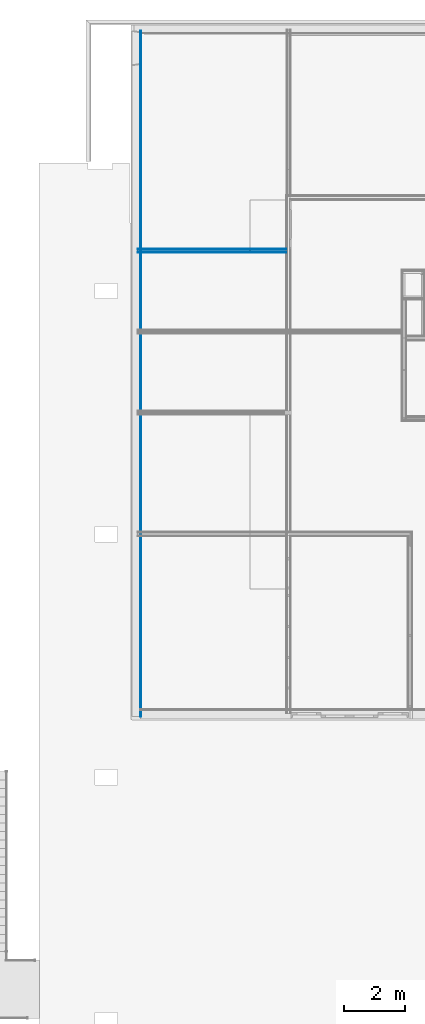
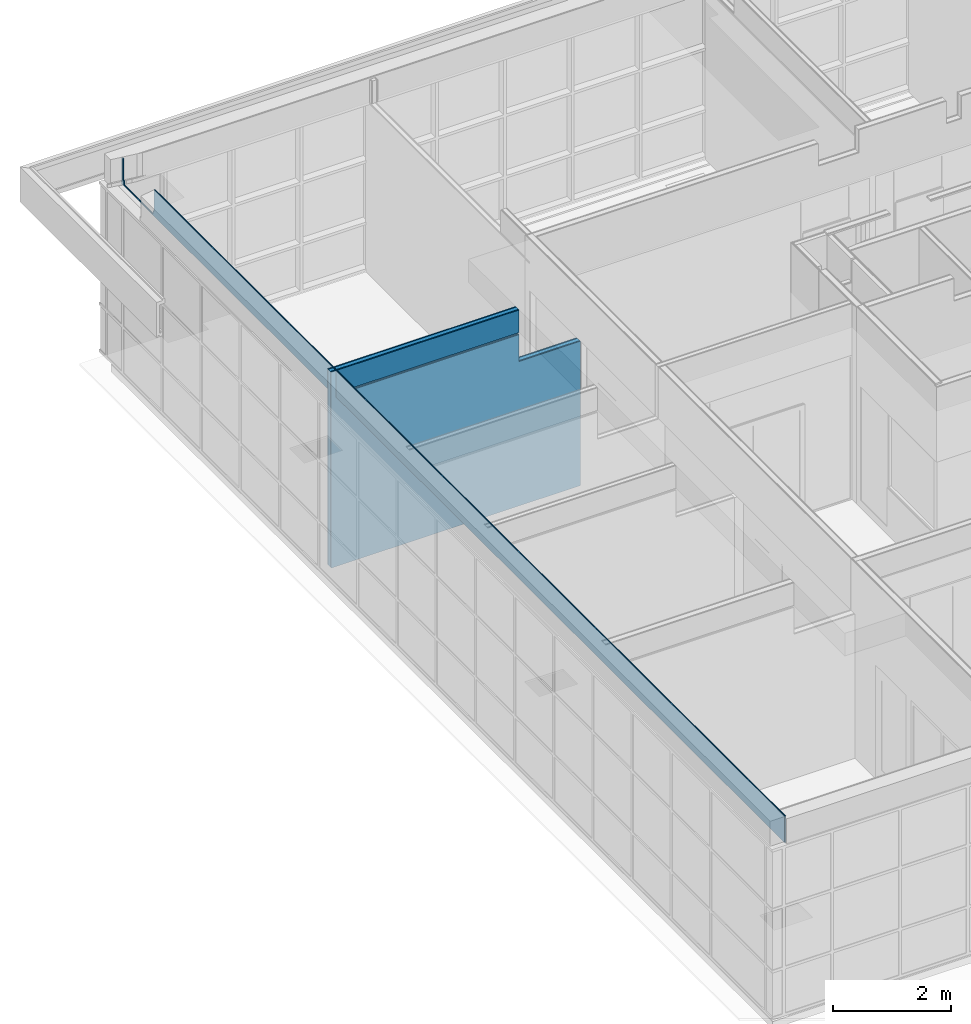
# One storey, part 36 of 109: 7 building element parts, 2 elements without a shape of their own.
"""IFC2X3 building model written with IfcOpenShell, lengths in millimetres."""

from ifc_helpers import new_model, entity, si_unit, converted_unit, derived_unit, money_unit, direction, frame, origin_with_axes, place, context, subcontext, project, spatial, faceted_brep, material, type_object, element, aggregate, save


model = new_model("IFC2X3")

# Units and contexts
model_context = context("Model", 3, precision=0.01, world=origin_with_axes(), true_north=direction((0.0, 1.0)))
body_context = subcontext(model_context, "Body", "Model", "MODEL_VIEW")
ifc_project = project(units=[si_unit("LENGTHUNIT", "METRE", prefix="MILLI"), si_unit("AREAUNIT", "SQUARE_METRE"), si_unit("VOLUMEUNIT", "CUBIC_METRE"), converted_unit("PLANEANGLEUNIT", "DEGREE", entity("IfcPlaneAngleMeasure", 0.0174532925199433), si_unit("PLANEANGLEUNIT", "RADIAN"), dimensions=[0, 0, 0, 0, 0, 0, 0]), money_unit("EUR"), converted_unit("TIMEUNIT", "Year", entity("IfcTimeMeasure", 31557600.0), si_unit("TIMEUNIT", "SECOND"), dimensions=[0, 0, 1, 0, 0, 0, 0]), si_unit("MASSUNIT", "GRAM", prefix="KILO"), si_unit("THERMODYNAMICTEMPERATUREUNIT", "DEGREE_CELSIUS"), si_unit("LUMINOUSINTENSITYUNIT", "LUMEN"), si_unit("ENERGYUNIT", "JOULE", prefix="MEGA"), derived_unit("THERMALCONDUCTANCEUNIT", [(si_unit("POWERUNIT", "WATT"), 1), (si_unit("LENGTHUNIT", "METRE"), -1), (si_unit("THERMODYNAMICTEMPERATUREUNIT", "KELVIN"), -1)]), derived_unit("SPECIFICHEATCAPACITYUNIT", [(si_unit("ENERGYUNIT", "JOULE"), 1), (si_unit("MASSUNIT", "GRAM", prefix="KILO"), -1), (si_unit("THERMODYNAMICTEMPERATUREUNIT", "KELVIN"), -1)]), derived_unit("MASSDENSITYUNIT", [(si_unit("MASSUNIT", "GRAM", prefix="KILO"), 1), (si_unit("VOLUMEUNIT", "CUBIC_METRE"), -1)])], contexts=[model_context])

# Site, building, storey
site_placement = place(None, origin_with_axes())
site = spatial("IfcSite", under=ifc_project, at=site_placement, Name="<site naam>", CompositionType="ELEMENT")
building_placement = place(site_placement, origin_with_axes())
building = spatial("IfcBuilding", under=site, at=building_placement, Name="<Naam gebouw>", CompositionType="ELEMENT")
storey_placement = place(building_placement, origin_with_axes())
storey = spatial("IfcBuildingStorey", under=building, at=storey_placement, Name="00 Begane grond", CompositionType="ELEMENT", Elevation=0.0)

# Wall, building element parts
wall_type_1 = type_object("IfcWallType", Name="MS-02 GF 125 ECO DGS/2.75.2.A 125", PredefinedType="NOTDEFINED")
wall_1_placement = place(storey_placement, frame((-3999.999999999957, 17333.33333333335, 0.0), z_axis=(0.0, 0.0, 1.0), x_axis=(-1.0, 0.0, 0.0)))
wall_1 = element("IfcWall", 1, at=wall_1_placement, inside=storey, type_object=wall_type_1, Name="22_Binnenwand_MS-02")
ifc_material_1 = material(Name="gipsplaat")
building_element_part_1_placement = place(wall_1_placement, origin_with_axes())
building_element_part_1 = element("IfcBuildingElementPart", 2, at=building_element_part_1_placement, material=ifc_material_1, Name="gipsplaat", context=body_context, shape_type="Brep", body=[
    faceted_brep([(1275.048195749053, 62.5, 4070.0), (1275.048195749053, 50.00000000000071, 4070.0), (4968.96338968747, 49.99999999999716, 4070.0), (4968.96338968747, 62.49999999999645, 4070.0), (1275.048195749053, 50.00000000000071, 3600.0), (1275.048195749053, 62.5, 3600.0), (1275.048195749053, 50.00000000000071, 3560.0), (1275.048195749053, 50.00000000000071, 3000.0), (75.00000520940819, 50.00000000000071, 3000.0), (75.00000000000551, 50.00000000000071, 0.0), (4968.96338968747, 49.99999999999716, 0.0), (4784.46338968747, 49.99999999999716, 3600.0), (4784.46338968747, 49.99999999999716, 3560.0), (4968.96338968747, 62.49999999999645, 0.0), (1275.048195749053, 62.5, 3000.0), (1275.048195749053, 62.5, 3560.0), (4784.46338968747, 62.49999999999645, 3560.0), (4784.46338968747, 62.49999999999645, 3600.0), (75.00000000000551, 62.5, 0.0), (75.00000520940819, 62.5, 3000.0)], [[[0, 1, 2, 3]], [[4, 1, 0, 5]], [[6, 7, 8, 9, 10, 2, 1, 4, 11, 12]], [[10, 13, 3, 2]], [[14, 15, 16, 17, 5, 0, 3, 13, 18, 19]], [[4, 5, 17, 11]], [[7, 6, 15, 14]], [[19, 8, 7, 14]], [[8, 19, 18, 9]], [[18, 13, 10, 9]], [[12, 11, 17, 16]], [[15, 6, 12, 16]]]),
])
building_element_part_2_placement = place(wall_1_placement, origin_with_axes())
building_element_part_2 = element("IfcBuildingElementPart", 3, at=building_element_part_2_placement, material=ifc_material_1, Name="gipsplaat", context=body_context, shape_type="Brep", body=[
    faceted_brep([(1275.048195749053, 50.00000000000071, 4070.0), (1275.048195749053, 37.50000000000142, 4070.0), (4968.96338968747, 37.49999999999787, 4070.0), (4968.96338968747, 49.99999999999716, 4070.0), (1275.048195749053, 37.50000000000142, 3600.0), (1275.048195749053, 50.00000000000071, 3600.0), (1275.048195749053, 37.50000000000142, 3560.0), (1275.048195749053, 37.50000000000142, 3000.0), (75.00000520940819, 37.50000000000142, 3000.0), (75.00000000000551, 37.50000000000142, 0.0), (4968.96338968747, 37.49999999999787, 0.0), (4784.46338968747, 37.49999999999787, 3600.0), (4784.46338968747, 37.49999999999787, 3560.0), (4968.96338968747, 49.99999999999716, 0.0), (1275.048195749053, 50.00000000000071, 3000.0), (1275.048195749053, 50.00000000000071, 3560.0), (4784.46338968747, 49.99999999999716, 3560.0), (4784.46338968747, 49.99999999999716, 3600.0), (75.00000000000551, 50.00000000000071, 0.0), (75.00000520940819, 50.00000000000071, 3000.0)], [[[0, 1, 2, 3]], [[4, 1, 0, 5]], [[6, 7, 8, 9, 10, 2, 1, 4, 11, 12]], [[10, 13, 3, 2]], [[14, 15, 16, 17, 5, 0, 3, 13, 18, 19]], [[4, 5, 17, 11]], [[7, 6, 15, 14]], [[19, 8, 7, 14]], [[8, 19, 18, 9]], [[18, 13, 10, 9]], [[12, 11, 17, 16]], [[15, 6, 12, 16]]]),
])
building_element_part_3_placement = place(wall_1_placement, origin_with_axes())
building_element_part_3 = element("IfcBuildingElementPart", 4, at=building_element_part_3_placement, material=ifc_material_1, Name="gipsplaat", context=body_context, shape_type="Brep", body=[
    faceted_brep([(1275.048195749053, -37.50000000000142, 4070.0), (1275.048195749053, -50.00000000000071, 4070.0), (4968.96338968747, -50.00000000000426, 4070.0), (4968.96338968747, -37.50000000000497, 4070.0), (1275.048195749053, -50.00000000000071, 3600.0), (1275.048195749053, -37.50000000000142, 3600.0), (1275.048195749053, -50.00000000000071, 3560.0), (1275.048195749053, -50.00000000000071, 3000.0), (75.00000520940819, -50.00000000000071, 3000.0), (75.00000000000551, -50.00000000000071, 0.0), (4968.96338968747, -50.00000000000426, 0.0), (4784.46338968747, -50.00000000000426, 3600.0), (4784.46338968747, -50.00000000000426, 3560.0), (4968.96338968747, -37.50000000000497, 0.0), (1275.048195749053, -37.50000000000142, 3000.0), (1275.048195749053, -37.50000000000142, 3560.0), (4784.46338968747, -37.50000000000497, 3560.0), (4784.46338968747, -37.50000000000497, 3600.0), (75.00000000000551, -37.50000000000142, 0.0), (75.00000520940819, -37.50000000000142, 3000.0)], [[[0, 1, 2, 3]], [[4, 1, 0, 5]], [[6, 7, 8, 9, 10, 2, 1, 4, 11, 12]], [[10, 13, 3, 2]], [[14, 15, 16, 17, 5, 0, 3, 13, 18, 19]], [[4, 5, 17, 11]], [[7, 6, 15, 14]], [[19, 8, 7, 14]], [[8, 19, 18, 9]], [[18, 13, 10, 9]], [[12, 11, 17, 16]], [[15, 6, 12, 16]]]),
])
building_element_part_4_placement = place(wall_1_placement, origin_with_axes())
building_element_part_4 = element("IfcBuildingElementPart", 5, at=building_element_part_4_placement, material=ifc_material_1, Name="gipsplaat", context=body_context, shape_type="Brep", body=[
    faceted_brep([(1275.048195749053, -50.00000000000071, 4070.0), (1275.048195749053, -62.5, 4070.0), (4968.96338968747, -62.50000000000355, 4070.0), (4968.96338968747, -50.00000000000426, 4070.0), (1275.048195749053, -62.5, 3600.0), (1275.048195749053, -50.00000000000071, 3600.0), (1275.048195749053, -62.5, 3560.0), (1275.048195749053, -62.5, 3000.0), (75.00000520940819, -62.5, 3000.0), (75.00000000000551, -62.5, 0.0), (4968.96338968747, -62.50000000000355, 0.0), (4784.46338968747, -62.50000000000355, 3600.0), (4784.46338968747, -62.50000000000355, 3560.0), (4968.96338968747, -50.00000000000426, 0.0), (1275.048195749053, -50.00000000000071, 3000.0), (1275.048195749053, -50.00000000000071, 3560.0), (4784.46338968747, -50.00000000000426, 3560.0), (4784.46338968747, -50.00000000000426, 3600.0), (75.00000000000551, -50.00000000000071, 0.0), (75.00000520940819, -50.00000000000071, 3000.0)], [[[0, 1, 2, 3]], [[4, 1, 0, 5]], [[6, 7, 8, 9, 10, 2, 1, 4, 11, 12]], [[10, 13, 3, 2]], [[14, 15, 16, 17, 5, 0, 3, 13, 18, 19]], [[4, 5, 17, 11]], [[7, 6, 15, 14]], [[19, 8, 7, 14]], [[8, 19, 18, 9]], [[18, 13, 10, 9]], [[12, 11, 17, 16]], [[15, 6, 12, 16]]]),
])
ifc_material_2 = material(Name="isolatie_steenwol LSW")
building_element_part_5_placement = place(wall_1_placement, origin_with_axes())
building_element_part_5 = element("IfcBuildingElementPart", 6, at=building_element_part_5_placement, material=ifc_material_2, Name="isolatie_steenwol LSW", context=body_context, shape_type="Brep", body=[
    faceted_brep([(1275.048195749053, 37.50000000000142, 4070.0), (1275.048195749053, -37.50000000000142, 4070.0), (4968.96338968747, -37.50000000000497, 4070.0), (4968.96338968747, 37.49999999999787, 4070.0), (1275.048195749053, -37.50000000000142, 3600.0), (1275.048195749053, 37.50000000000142, 3600.0), (1275.048195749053, -37.50000000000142, 3560.0), (1275.048195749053, -37.50000000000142, 3000.0), (75.00000520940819, -37.50000000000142, 3000.0), (75.00000000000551, -37.50000000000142, 0.0), (4968.96338968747, -37.50000000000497, 0.0), (4784.46338968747, -37.50000000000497, 3600.0), (4784.46338968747, -37.50000000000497, 3560.0), (4968.96338968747, 37.49999999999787, 0.0), (1275.048195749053, 37.50000000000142, 3000.0), (1275.048195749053, 37.50000000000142, 3560.0), (4784.46338968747, 37.49999999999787, 3560.0), (4784.46338968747, 37.49999999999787, 3600.0), (75.00000000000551, 37.50000000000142, 0.0), (75.00000520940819, 37.50000000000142, 3000.0)], [[[0, 1, 2, 3]], [[4, 1, 0, 5]], [[6, 7, 8, 9, 10, 2, 1, 4, 11, 12]], [[10, 13, 3, 2]], [[14, 15, 16, 17, 5, 0, 3, 13, 18, 19]], [[4, 5, 17, 11]], [[7, 6, 15, 14]], [[19, 8, 7, 14]], [[8, 19, 18, 9]], [[18, 13, 10, 9]], [[12, 11, 17, 16]], [[15, 6, 12, 16]]]),
])
aggregate(wall_1, [building_element_part_1, building_element_part_2, building_element_part_3, building_element_part_4, building_element_part_5])

wall_type_2 = type_object("IfcWallType", Name="HSB_285 zonder gevelbeplating 313", PredefinedType="NOTDEFINED")
wall_2_placement = place(storey_placement, frame((-9160.499999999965, 1997.50000000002, 3522.500151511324), z_axis=(0.0, 0.0, 1.0), x_axis=(0.0, 1.0, 0.0)))
wall_2 = element("IfcWall", 7, at=wall_2_placement, inside=storey, type_object=wall_type_2, Name="21_Binnenwand_HSB_285")
ifc_material_3 = material(Name="hout_OSB")
building_element_part_6_placement = place(wall_2_placement, origin_with_axes())
building_element_part_6 = element("IfcBuildingElementPart", 8, at=building_element_part_6_placement, material=ifc_material_3, Name="hout_OSB", context=body_context, shape_type="Brep", body=[
    faceted_brep([(21497.58990178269, -284.9999999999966, 97.49984848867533), (21499.93365178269, -299.9999999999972, 97.49984848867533), (21499.93365178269, -299.9999999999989, 17.4998484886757), (21497.58990178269, -284.9999999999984, 17.4998484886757), (21468.046875, -299.9999999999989, 97.49984848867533), (21465.703125, -284.9999999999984, 97.49984848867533), (22536.953125, -299.9999999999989, 97.49984848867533), (22505.06634821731, -300.0000000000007, 97.49984848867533), (22505.0663482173, -299.9999999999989, 17.4998484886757), (21468.046875, -299.9999999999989, 547.4998802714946), (0.0, -300.0000000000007, 547.4998802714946), (0.0, -300.0000000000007, 0.0), (22570.99999999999, -299.9999999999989, 0.0), (22570.99999999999, -299.9999999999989, 547.4998802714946), (22536.953125, -299.9999999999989, 547.4998802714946), (22507.4100982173, -284.9999999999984, 17.4998484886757), (22539.296875, -284.9999999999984, 97.49984848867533), (22539.29687499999, -284.9999999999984, 547.4998802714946), (22570.99999999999, -284.9999999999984, 547.4998802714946), (22570.99999999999, -284.9999999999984, 0.0), (0.0, -285.0000000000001, 0.0), (0.0, -285.0000000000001, 547.4998802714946), (21465.70312499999, -284.9999999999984, 547.4998802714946), (22507.41009821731, -285.0000000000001, 97.49984848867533)], [[[0, 1, 2, 3]], [[4, 1, 0, 5]], [[6, 7, 8, 2, 1, 4, 9, 10, 11, 12, 13, 14]], [[2, 8, 15, 3]], [[16, 17, 18, 19, 20, 21, 22, 5, 0, 3, 15, 23]], [[22, 9, 4, 5]], [[7, 6, 16, 23]], [[7, 23, 15, 8]], [[9, 22, 21, 10]], [[20, 11, 10, 21]], [[11, 20, 19, 12]], [[19, 18, 13, 12]], [[17, 14, 13, 18]], [[6, 14, 17, 16]]]),
])
building_element_part_7_placement = place(wall_2_placement, origin_with_axes())
building_element_part_7 = element("IfcBuildingElementPart", 9, at=building_element_part_7_placement, material=ifc_material_1, Name="gipsplaat", context=body_context, shape_type="Brep", body=[
    faceted_brep([(21499.93365178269, -299.9999999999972, 97.49984848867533), (21501.88677678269, -312.4999999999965, 97.49984848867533), (21501.88677678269, -312.4999999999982, 17.4998484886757), (21499.93365178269, -299.9999999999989, 17.4998484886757), (21470.0, -312.4999999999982, 97.49984848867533), (21468.046875, -299.9999999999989, 97.49984848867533), (22535.0, -312.4999999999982, 97.49984848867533), (22503.11322321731, -312.5, 97.49984848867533), (22503.1132232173, -312.4999999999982, 17.4998484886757), (21470.0, -312.4999999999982, 547.4998802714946), (0.0, -312.5, 547.4998802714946), (0.0, -312.5, 0.0), (22570.99999999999, -312.4999999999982, 0.0), (22570.99999999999, -312.4999999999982, 547.4998802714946), (22534.99999999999, -312.4999999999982, 547.4998802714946), (22505.0663482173, -299.9999999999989, 17.4998484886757), (22536.953125, -299.9999999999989, 97.49984848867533), (22536.953125, -299.9999999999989, 547.4998802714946), (22570.99999999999, -299.9999999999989, 547.4998802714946), (22570.99999999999, -299.9999999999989, 0.0), (0.0, -300.0000000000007, 0.0), (0.0, -300.0000000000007, 547.4998802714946), (21468.046875, -299.9999999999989, 547.4998802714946), (22505.06634821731, -300.0000000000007, 97.49984848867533)], [[[0, 1, 2, 3]], [[4, 1, 0, 5]], [[6, 7, 8, 2, 1, 4, 9, 10, 11, 12, 13, 14]], [[2, 8, 15, 3]], [[16, 17, 18, 19, 20, 21, 22, 5, 0, 3, 15, 23]], [[22, 9, 4, 5]], [[7, 6, 16, 23]], [[7, 23, 15, 8]], [[9, 22, 21, 10]], [[20, 11, 10, 21]], [[11, 20, 19, 12]], [[19, 18, 13, 12]], [[17, 14, 13, 18]], [[6, 14, 17, 16]]]),
])
aggregate(wall_2, [building_element_part_6, building_element_part_7])

save(model, "model.ifc")
